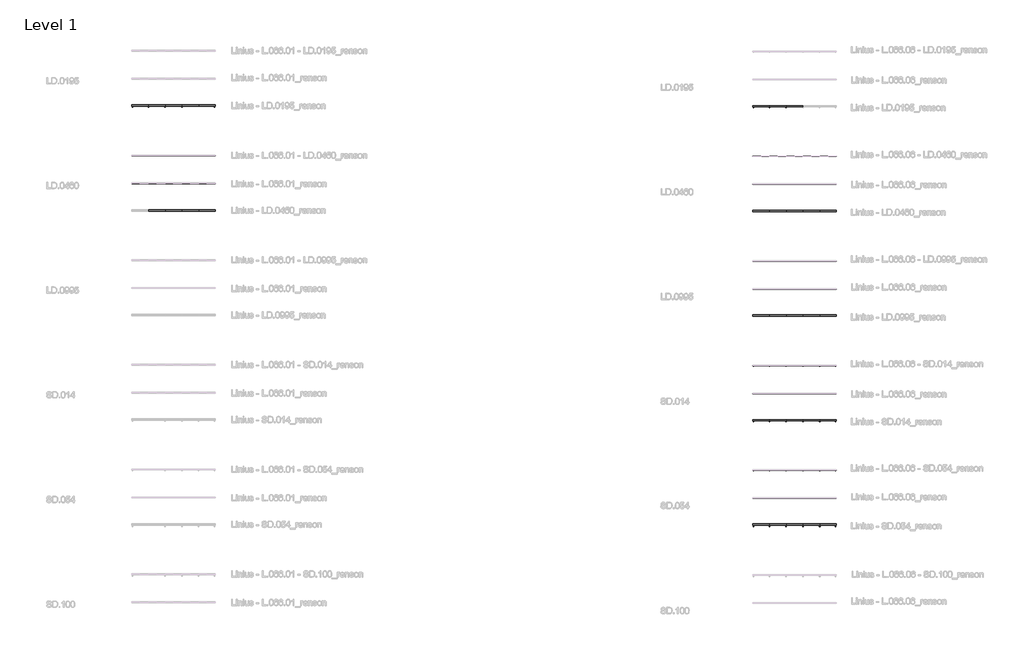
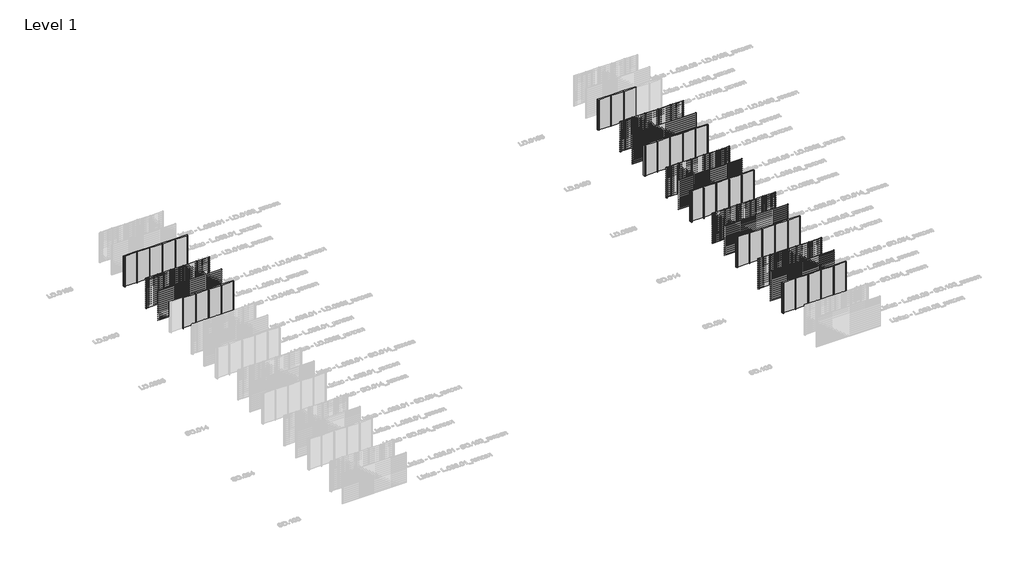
# One storey, part 3 of 540: 68 members, 62 plates.
"""IFC4 building model written with IfcOpenShell, lengths in millimetres."""

from ifc_helpers import new_model, si_unit, origin, origin_with_axes, place, context, project, spatial, polyline, outline, extrude, transform, mapped, element, save
from components import rectangular_mullion_e1f482b2, rectangular_mullion_21e3ddae, rectangular_mullion_fb497acc, rectangular_mullion_3facce28, rectangular_mullion_6cf2c509, rectangular_mullion_146f339b, rectangular_mullion_aa1047c5, rectangular_mullion_c2c7736a, rectangular_mullion_35b0a916, rectangular_mullion_bd250e2e, rectangular_mullion_7b49c8f1, rectangular_mullion_2b84ad7e, rectangular_mullion_0fd695e7, rectangular_mullion_9b796d85, rectangular_mullion_dfb17e98, empty_system_panel_empty_aabbdda4

model = new_model("IFC4")

# Units and contexts
model_context = context("Model", 3, world=origin())
ifc_project = project(units=[si_unit("LENGTHUNIT", "METRE", prefix="MILLI")], contexts=[model_context])

# Site, building, storey
site = spatial("IfcSite", under=ifc_project)
building = spatial("IfcBuilding", under=site)
storey = spatial("IfcBuildingStorey", under=building, Name="Level 1", Elevation=0.0)

# Members
placement = place(None, origin())
rectangular_mullion_shape = rectangular_mullion_e1f482b2(model_context)
element("IfcMember", 1, ObjectType="Rectangular Mullion : LD.0195_renson", at=placement, inside=storey, context=model_context, shape_type="MappedRepresentation", body=[
    mapped(rectangular_mullion_shape, transform((4066.6208096, 62524.0540136, 0.0), x_axis=(-1.0, 0.0, 0.0), y_axis=(0.0, 1.0, 0.0), z_axis=(0.0, 0.0, -1.0))),
])
element("IfcMember", 2, ObjectType="Rectangular Mullion : LD.0195_renson", at=placement, inside=storey, context=model_context, shape_type="MappedRepresentation", body=[
    mapped(rectangular_mullion_shape, transform((2866.6208097, 62524.0540136, 0.0), x_axis=(-1.0, 0.0, 0.0), y_axis=(0.0, 1.0, 0.0), z_axis=(0.0, 0.0, -1.0))),
])
element("IfcMember", 3, ObjectType="Rectangular Mullion : LD.0195_renson", at=placement, inside=storey, context=model_context, shape_type="MappedRepresentation", body=[
    mapped(rectangular_mullion_shape, transform((1666.6208099, 62524.0540136, 0.0), x_axis=(-1.0, 0.0, 0.0), y_axis=(0.0, 1.0, 0.0), z_axis=(0.0, 0.0, -1.0))),
])
element("IfcMember", 4, ObjectType="Rectangular Mullion : LD.0195_renson", at=placement, inside=storey, context=model_context, shape_type="MappedRepresentation", body=[
    mapped(rectangular_mullion_shape, transform((5266.6208095, 62524.0540136, 0.0), x_axis=(-1.0, 0.0, 0.0), y_axis=(0.0, 1.0, 0.0), z_axis=(0.0, 0.0, -1.0))),
])
element("IfcMember", 5, ObjectType="Rectangular Mullion : LD.0195_renson", at=placement, inside=storey, context=model_context, shape_type="MappedRepresentation", body=[
    mapped(rectangular_mullion_shape, transform((47366.6208097, 62481.0540136, 0.0), x_axis=(-1.0, 0.0, 0.0), y_axis=(0.0, 1.0, 0.0), z_axis=(0.0, 0.0, -1.0))),
])
element("IfcMember", 6, ObjectType="Rectangular Mullion : LD.0195_renson", at=placement, inside=storey, context=model_context, shape_type="MappedRepresentation", body=[
    mapped(rectangular_mullion_shape, transform((46166.6208097, 62481.0540136, 0.0), x_axis=(-1.0, 0.0, 0.0), y_axis=(0.0, 1.0, 0.0), z_axis=(0.0, 0.0, -1.0))),
])
rectangular_mullion_2_shape = rectangular_mullion_21e3ddae(model_context)
element("IfcMember", 7, ObjectType="Rectangular Mullion : LD.0460_renson", at=placement, inside=storey, context=model_context, shape_type="MappedRepresentation", body=[
    mapped(rectangular_mullion_2_shape, transform((4066.6208096, 59024.0540136, 0.0), x_axis=(-1.0, 0.0, 0.0), y_axis=(0.0, 1.0, 0.0), z_axis=(0.0, 0.0, -1.0))),
])
element("IfcMember", 8, ObjectType="Rectangular Mullion : LD.0460_renson", at=placement, inside=storey, context=model_context, shape_type="MappedRepresentation", body=[
    mapped(rectangular_mullion_2_shape, transform((2866.6208097, 59024.0540136, 0.0), x_axis=(-1.0, 0.0, 0.0), y_axis=(0.0, 1.0, 0.0), z_axis=(0.0, 0.0, -1.0))),
])
element("IfcMember", 9, ObjectType="Rectangular Mullion : LD.0460_renson", at=placement, inside=storey, context=model_context, shape_type="MappedRepresentation", body=[
    mapped(rectangular_mullion_2_shape, transform((1666.6208099, 59024.0540136, 0.0), x_axis=(-1.0, 0.0, 0.0), y_axis=(0.0, 1.0, 0.0), z_axis=(0.0, 0.0, -1.0))),
])
element("IfcMember", 10, ObjectType="Rectangular Mullion : LD.0460_renson", at=placement, inside=storey, context=model_context, shape_type="MappedRepresentation", body=[
    mapped(rectangular_mullion_2_shape, transform((4066.6208096, 55024.0540136, 0.0), x_axis=(-1.0, 0.0, 0.0), y_axis=(0.0, 1.0, 0.0), z_axis=(0.0, 0.0, -1.0))),
])
element("IfcMember", 11, ObjectType="Rectangular Mullion : LD.0460_renson", at=placement, inside=storey, context=model_context, shape_type="MappedRepresentation", body=[
    mapped(rectangular_mullion_2_shape, transform((2866.6208097, 55024.0540136, 0.0), x_axis=(-1.0, 0.0, 0.0), y_axis=(0.0, 1.0, 0.0), z_axis=(0.0, 0.0, -1.0))),
])
element("IfcMember", 12, ObjectType="Rectangular Mullion : LD.0460_renson", at=placement, inside=storey, context=model_context, shape_type="MappedRepresentation", body=[
    mapped(rectangular_mullion_2_shape, transform((1666.6208099, 55024.0540136, 0.0), x_axis=(-1.0, 0.0, 0.0), y_axis=(0.0, 1.0, 0.0), z_axis=(0.0, 0.0, -1.0))),
])
element("IfcMember", 13, ObjectType="Rectangular Mullion : LD.0460_renson", at=placement, inside=storey, context=model_context, shape_type="MappedRepresentation", body=[
    mapped(rectangular_mullion_2_shape, transform((5266.6208095, 55024.0540136, 0.0), x_axis=(-1.0, 0.0, 0.0), y_axis=(0.0, 1.0, 0.0), z_axis=(0.0, 0.0, -1.0))),
])
element("IfcMember", 14, ObjectType="Rectangular Mullion : LD.0460_renson", at=placement, inside=storey, context=model_context, shape_type="MappedRepresentation", body=[
    mapped(rectangular_mullion_2_shape, transform((5266.6208095, 59024.0540136, 0.0), x_axis=(-1.0, 0.0, 0.0), y_axis=(0.0, 1.0, 0.0), z_axis=(0.0, 0.0, -1.0))),
])
element("IfcMember", 15, ObjectType="Rectangular Mullion : LD.0460_renson", at=placement, inside=storey, context=model_context, shape_type="MappedRepresentation", body=[
    mapped(rectangular_mullion_2_shape, transform((49766.6208097, 58981.0540136, 0.0), x_axis=(-1.0, 0.0, 0.0), y_axis=(0.0, 1.0, 0.0), z_axis=(0.0, 0.0, -1.0))),
])
element("IfcMember", 16, ObjectType="Rectangular Mullion : LD.0460_renson", at=placement, inside=storey, context=model_context, shape_type="MappedRepresentation", body=[
    mapped(rectangular_mullion_2_shape, transform((48566.6208097, 58981.0540136, 0.0), x_axis=(-1.0, 0.0, 0.0), y_axis=(0.0, 1.0, 0.0), z_axis=(0.0, 0.0, -1.0))),
])
element("IfcMember", 17, ObjectType="Rectangular Mullion : LD.0460_renson", at=placement, inside=storey, context=model_context, shape_type="MappedRepresentation", body=[
    mapped(rectangular_mullion_2_shape, transform((47366.6208097, 58981.0540136, 0.0), x_axis=(-1.0, 0.0, 0.0), y_axis=(0.0, 1.0, 0.0), z_axis=(0.0, 0.0, -1.0))),
])
element("IfcMember", 18, ObjectType="Rectangular Mullion : LD.0460_renson", at=placement, inside=storey, context=model_context, shape_type="MappedRepresentation", body=[
    mapped(rectangular_mullion_2_shape, transform((46166.6208097, 58981.0540136, 0.0), x_axis=(-1.0, 0.0, 0.0), y_axis=(0.0, 1.0, 0.0), z_axis=(0.0, 0.0, -1.0))),
])
element("IfcMember", 19, ObjectType="Rectangular Mullion : LD.0460_renson", at=placement, inside=storey, context=model_context, shape_type="MappedRepresentation", body=[
    mapped(rectangular_mullion_2_shape, transform((49766.6208097, 54981.0540136, 0.0), x_axis=(-1.0, 0.0, 0.0), y_axis=(0.0, 1.0, 0.0), z_axis=(0.0, 0.0, -1.0))),
])
element("IfcMember", 20, ObjectType="Rectangular Mullion : LD.0460_renson", at=placement, inside=storey, context=model_context, shape_type="MappedRepresentation", body=[
    mapped(rectangular_mullion_2_shape, transform((48566.6208097, 54981.0540136, 0.0), x_axis=(-1.0, 0.0, 0.0), y_axis=(0.0, 1.0, 0.0), z_axis=(0.0, 0.0, -1.0))),
])
element("IfcMember", 21, ObjectType="Rectangular Mullion : LD.0460_renson", at=placement, inside=storey, context=model_context, shape_type="MappedRepresentation", body=[
    mapped(rectangular_mullion_2_shape, transform((47366.6208097, 54981.0540136, 0.0), x_axis=(-1.0, 0.0, 0.0), y_axis=(0.0, 1.0, 0.0), z_axis=(0.0, 0.0, -1.0))),
])
element("IfcMember", 22, ObjectType="Rectangular Mullion : LD.0460_renson", at=placement, inside=storey, context=model_context, shape_type="MappedRepresentation", body=[
    mapped(rectangular_mullion_2_shape, transform((46166.6208097, 54981.0540136, 0.0), x_axis=(-1.0, 0.0, 0.0), y_axis=(0.0, 1.0, 0.0), z_axis=(0.0, 0.0, -1.0))),
])
rectangular_mullion_3_shape = rectangular_mullion_fb497acc(model_context)
element("IfcMember", 23, ObjectType="Rectangular Mullion : LD.0995_renson", at=placement, inside=storey, context=model_context, shape_type="MappedRepresentation", body=[
    mapped(rectangular_mullion_3_shape, transform((49766.6208097, 51481.0540136, 0.0), x_axis=(-1.0, 0.0, 0.0), y_axis=(0.0, 1.0, 0.0), z_axis=(0.0, 0.0, -1.0))),
])
element("IfcMember", 24, ObjectType="Rectangular Mullion : LD.0995_renson", at=placement, inside=storey, context=model_context, shape_type="MappedRepresentation", body=[
    mapped(rectangular_mullion_3_shape, transform((48566.6208097, 51481.0540136, 0.0), x_axis=(-1.0, 0.0, 0.0), y_axis=(0.0, 1.0, 0.0), z_axis=(0.0, 0.0, -1.0))),
])
element("IfcMember", 25, ObjectType="Rectangular Mullion : LD.0995_renson", at=placement, inside=storey, context=model_context, shape_type="MappedRepresentation", body=[
    mapped(rectangular_mullion_3_shape, transform((47366.6208097, 51481.0540136, 0.0), x_axis=(-1.0, 0.0, 0.0), y_axis=(0.0, 1.0, 0.0), z_axis=(0.0, 0.0, -1.0))),
])
element("IfcMember", 26, ObjectType="Rectangular Mullion : LD.0995_renson", at=placement, inside=storey, context=model_context, shape_type="MappedRepresentation", body=[
    mapped(rectangular_mullion_3_shape, transform((46166.6208097, 51481.0540136, 0.0), x_axis=(-1.0, 0.0, 0.0), y_axis=(0.0, 1.0, 0.0), z_axis=(0.0, 0.0, -1.0))),
])
element("IfcMember", 27, ObjectType="Rectangular Mullion : LD.0995_renson", at=placement, inside=storey, context=model_context, shape_type="MappedRepresentation", body=[
    mapped(rectangular_mullion_3_shape, transform((49766.6208097, 47481.0540136, 0.0), x_axis=(-1.0, 0.0, 0.0), y_axis=(0.0, 1.0, 0.0), z_axis=(0.0, 0.0, -1.0))),
])
element("IfcMember", 28, ObjectType="Rectangular Mullion : LD.0995_renson", at=placement, inside=storey, context=model_context, shape_type="MappedRepresentation", body=[
    mapped(rectangular_mullion_3_shape, transform((48566.6208097, 47481.0540136, 0.0), x_axis=(-1.0, 0.0, 0.0), y_axis=(0.0, 1.0, 0.0), z_axis=(0.0, 0.0, -1.0))),
])
element("IfcMember", 29, ObjectType="Rectangular Mullion : LD.0995_renson", at=placement, inside=storey, context=model_context, shape_type="MappedRepresentation", body=[
    mapped(rectangular_mullion_3_shape, transform((47366.6208097, 47481.0540136, 0.0), x_axis=(-1.0, 0.0, 0.0), y_axis=(0.0, 1.0, 0.0), z_axis=(0.0, 0.0, -1.0))),
])
element("IfcMember", 30, ObjectType="Rectangular Mullion : LD.0995_renson", at=placement, inside=storey, context=model_context, shape_type="MappedRepresentation", body=[
    mapped(rectangular_mullion_3_shape, transform((46166.6208097, 47481.0540136, 0.0), x_axis=(-1.0, 0.0, 0.0), y_axis=(0.0, 1.0, 0.0), z_axis=(0.0, 0.0, -1.0))),
])
rectangular_mullion_4_shape = rectangular_mullion_3facce28(model_context)
element("IfcMember", 31, ObjectType="Rectangular Mullion : SD.014_renson", at=placement, inside=storey, context=model_context, shape_type="MappedRepresentation", body=[
    mapped(rectangular_mullion_4_shape, transform((49766.6208097, 43981.0540136, 0.0), x_axis=(-1.0, 0.0, 0.0), y_axis=(0.0, 1.0, 0.0), z_axis=(0.0, 0.0, -1.0))),
])
element("IfcMember", 32, ObjectType="Rectangular Mullion : SD.014_renson", at=placement, inside=storey, context=model_context, shape_type="MappedRepresentation", body=[
    mapped(rectangular_mullion_4_shape, transform((48566.6208097, 43981.0540136, 0.0), x_axis=(-1.0, 0.0, 0.0), y_axis=(0.0, 1.0, 0.0), z_axis=(0.0, 0.0, -1.0))),
])
element("IfcMember", 33, ObjectType="Rectangular Mullion : SD.014_renson", at=placement, inside=storey, context=model_context, shape_type="MappedRepresentation", body=[
    mapped(rectangular_mullion_4_shape, transform((47366.6208097, 43981.0540136, 0.0), x_axis=(-1.0, 0.0, 0.0), y_axis=(0.0, 1.0, 0.0), z_axis=(0.0, 0.0, -1.0))),
])
element("IfcMember", 34, ObjectType="Rectangular Mullion : SD.014_renson", at=placement, inside=storey, context=model_context, shape_type="MappedRepresentation", body=[
    mapped(rectangular_mullion_4_shape, transform((46166.6208097, 43981.0540136, 0.0), x_axis=(-1.0, 0.0, 0.0), y_axis=(0.0, 1.0, 0.0), z_axis=(0.0, 0.0, -1.0))),
])
element("IfcMember", 35, ObjectType="Rectangular Mullion : SD.014_renson", at=placement, inside=storey, context=model_context, shape_type="MappedRepresentation", body=[
    mapped(rectangular_mullion_4_shape, transform((49766.6208097, 39981.0540136, 0.0), x_axis=(-1.0, 0.0, 0.0), y_axis=(0.0, 1.0, 0.0), z_axis=(0.0, 0.0, -1.0))),
])
element("IfcMember", 36, ObjectType="Rectangular Mullion : SD.014_renson", at=placement, inside=storey, context=model_context, shape_type="MappedRepresentation", body=[
    mapped(rectangular_mullion_4_shape, transform((48566.6208097, 39981.0540136, 0.0), x_axis=(-1.0, 0.0, 0.0), y_axis=(0.0, 1.0, 0.0), z_axis=(0.0, 0.0, -1.0))),
])
element("IfcMember", 37, ObjectType="Rectangular Mullion : SD.014_renson", at=placement, inside=storey, context=model_context, shape_type="MappedRepresentation", body=[
    mapped(rectangular_mullion_4_shape, transform((47366.6208097, 39981.0540136, 0.0), x_axis=(-1.0, 0.0, 0.0), y_axis=(0.0, 1.0, 0.0), z_axis=(0.0, 0.0, -1.0))),
])
element("IfcMember", 38, ObjectType="Rectangular Mullion : SD.014_renson", at=placement, inside=storey, context=model_context, shape_type="MappedRepresentation", body=[
    mapped(rectangular_mullion_4_shape, transform((46166.6208097, 39981.0540136, 0.0), x_axis=(-1.0, 0.0, 0.0), y_axis=(0.0, 1.0, 0.0), z_axis=(0.0, 0.0, -1.0))),
])
rectangular_mullion_5_shape = rectangular_mullion_6cf2c509(model_context)
element("IfcMember", 39, ObjectType="Rectangular Mullion : SD.054_renson", at=placement, inside=storey, context=model_context, shape_type="MappedRepresentation", body=[
    mapped(rectangular_mullion_5_shape, transform((49766.6208097, 36510.8040136, 0.0), x_axis=(-1.0, 0.0, 0.0), y_axis=(0.0, 1.0, 0.0), z_axis=(0.0, 0.0, -1.0))),
])
element("IfcMember", 40, ObjectType="Rectangular Mullion : SD.054_renson", at=placement, inside=storey, context=model_context, shape_type="MappedRepresentation", body=[
    mapped(rectangular_mullion_5_shape, transform((48566.6208097, 36510.8040136, 0.0), x_axis=(-1.0, 0.0, 0.0), y_axis=(0.0, 1.0, 0.0), z_axis=(0.0, 0.0, -1.0))),
])
element("IfcMember", 41, ObjectType="Rectangular Mullion : SD.054_renson", at=placement, inside=storey, context=model_context, shape_type="MappedRepresentation", body=[
    mapped(rectangular_mullion_5_shape, transform((47366.6208097, 36510.8040136, 0.0), x_axis=(-1.0, 0.0, 0.0), y_axis=(0.0, 1.0, 0.0), z_axis=(0.0, 0.0, -1.0))),
])
element("IfcMember", 42, ObjectType="Rectangular Mullion : SD.054_renson", at=placement, inside=storey, context=model_context, shape_type="MappedRepresentation", body=[
    mapped(rectangular_mullion_5_shape, transform((46166.6208097, 36510.8040136, 0.0), x_axis=(-1.0, 0.0, 0.0), y_axis=(0.0, 1.0, 0.0), z_axis=(0.0, 0.0, -1.0))),
])
element("IfcMember", 43, ObjectType="Rectangular Mullion : SD.054_renson", at=placement, inside=storey, context=model_context, shape_type="MappedRepresentation", body=[
    mapped(rectangular_mullion_5_shape, transform((49766.6208097, 32510.8040136, 0.0), x_axis=(-1.0, 0.0, 0.0), y_axis=(0.0, 1.0, 0.0), z_axis=(0.0, 0.0, -1.0))),
])
element("IfcMember", 44, ObjectType="Rectangular Mullion : SD.054_renson", at=placement, inside=storey, context=model_context, shape_type="MappedRepresentation", body=[
    mapped(rectangular_mullion_5_shape, transform((48566.6208097, 32510.8040136, 0.0), x_axis=(-1.0, 0.0, 0.0), y_axis=(0.0, 1.0, 0.0), z_axis=(0.0, 0.0, -1.0))),
])
element("IfcMember", 45, ObjectType="Rectangular Mullion : SD.054_renson", at=placement, inside=storey, context=model_context, shape_type="MappedRepresentation", body=[
    mapped(rectangular_mullion_5_shape, transform((47366.6208097, 32510.8040136, 0.0), x_axis=(-1.0, 0.0, 0.0), y_axis=(0.0, 1.0, 0.0), z_axis=(0.0, 0.0, -1.0))),
])
element("IfcMember", 46, ObjectType="Rectangular Mullion : SD.054_renson", at=placement, inside=storey, context=model_context, shape_type="MappedRepresentation", body=[
    mapped(rectangular_mullion_5_shape, transform((46166.6208097, 32510.8040136, 0.0), x_axis=(-1.0, 0.0, 0.0), y_axis=(0.0, 1.0, 0.0), z_axis=(0.0, 0.0, -1.0))),
])
rectangular_mullion_6_shape = rectangular_mullion_146f339b(model_context)
element("IfcMember", 47, ObjectType="Rectangular Mullion : LD.0195 - left_renson", at=placement, inside=storey, context=model_context, shape_type="MappedRepresentation", body=[
    mapped(rectangular_mullion_6_shape, transform((466.6208097, 62524.0540136, 0.0), x_axis=(-1.0, 0.0, 0.0), y_axis=(0.0, 1.0, 0.0), z_axis=(0.0, 0.0, -1.0))),
])
element("IfcMember", 48, ObjectType="Rectangular Mullion : LD.0195 - left_renson", at=placement, inside=storey, context=model_context, shape_type="MappedRepresentation", body=[
    mapped(rectangular_mullion_6_shape, transform((44966.6208097, 62481.0540136, 0.0), x_axis=(-1.0, 0.0, 0.0), y_axis=(0.0, 1.0, 0.0), z_axis=(0.0, 0.0, -1.0))),
])
rectangular_mullion_7_shape = rectangular_mullion_aa1047c5(model_context)
element("IfcMember", 49, ObjectType="Rectangular Mullion : LD.0195 - right_renson", at=placement, inside=storey, context=model_context, shape_type="MappedRepresentation", body=[
    mapped(rectangular_mullion_7_shape, transform((6466.6208097, 62524.0540136, 3000.0), x_axis=(1.0, 0.0, 0.0), y_axis=(0.0, 1.0, 0.0), z_axis=(0.0, 0.0, 1.0))),
])
rectangular_mullion_8_shape = rectangular_mullion_c2c7736a(model_context)
element("IfcMember", 50, ObjectType="Rectangular Mullion : LD.0460 - left_renson", at=placement, inside=storey, context=model_context, shape_type="MappedRepresentation", body=[
    mapped(rectangular_mullion_8_shape, transform((466.6208097, 59024.0540136, 0.0), x_axis=(-1.0, 0.0, 0.0), y_axis=(0.0, 1.0, 0.0), z_axis=(0.0, 0.0, -1.0))),
])
element("IfcMember", 51, ObjectType="Rectangular Mullion : LD.0460 - left_renson", at=placement, inside=storey, context=model_context, shape_type="MappedRepresentation", body=[
    mapped(rectangular_mullion_8_shape, transform((44966.6208097, 58981.0540136, 0.0), x_axis=(-1.0, 0.0, 0.0), y_axis=(0.0, 1.0, 0.0), z_axis=(0.0, 0.0, -1.0))),
])
element("IfcMember", 52, ObjectType="Rectangular Mullion : LD.0460 - left_renson", at=placement, inside=storey, context=model_context, shape_type="MappedRepresentation", body=[
    mapped(rectangular_mullion_8_shape, transform((44966.6208097, 54981.0540136, 0.0), x_axis=(-1.0, 0.0, 0.0), y_axis=(0.0, 1.0, 0.0), z_axis=(0.0, 0.0, -1.0))),
])
rectangular_mullion_9_shape = rectangular_mullion_35b0a916(model_context)
element("IfcMember", 53, ObjectType="Rectangular Mullion : LD.0460 - right_renson", at=placement, inside=storey, context=model_context, shape_type="MappedRepresentation", body=[
    mapped(rectangular_mullion_9_shape, transform((6466.6208097, 59024.0540136, 3000.0), x_axis=(1.0, 0.0, 0.0), y_axis=(0.0, 1.0, 0.0), z_axis=(0.0, 0.0, 1.0))),
])
element("IfcMember", 54, ObjectType="Rectangular Mullion : LD.0460 - right_renson", at=placement, inside=storey, context=model_context, shape_type="MappedRepresentation", body=[
    mapped(rectangular_mullion_9_shape, transform((6466.6208097, 55024.0540136, 3000.0), x_axis=(1.0, 0.0, 0.0), y_axis=(0.0, 1.0, 0.0), z_axis=(0.0, 0.0, 1.0))),
])
element("IfcMember", 55, ObjectType="Rectangular Mullion : LD.0460 - right_renson", at=placement, inside=storey, context=model_context, shape_type="MappedRepresentation", body=[
    mapped(rectangular_mullion_9_shape, transform((50966.6208097, 58981.0540136, 3000.0), x_axis=(1.0, 0.0, 0.0), y_axis=(0.0, 1.0, 0.0), z_axis=(0.0, 0.0, 1.0))),
])
element("IfcMember", 56, ObjectType="Rectangular Mullion : LD.0460 - right_renson", at=placement, inside=storey, context=model_context, shape_type="MappedRepresentation", body=[
    mapped(rectangular_mullion_9_shape, transform((50966.6208097, 54981.0540136, 3000.0), x_axis=(1.0, 0.0, 0.0), y_axis=(0.0, 1.0, 0.0), z_axis=(0.0, 0.0, 1.0))),
])
rectangular_mullion_10_shape = rectangular_mullion_bd250e2e(model_context)
element("IfcMember", 57, ObjectType="Rectangular Mullion : LD.0995 - left_renson", at=placement, inside=storey, context=model_context, shape_type="MappedRepresentation", body=[
    mapped(rectangular_mullion_10_shape, transform((44966.6208097, 51481.0540136, 0.0), x_axis=(-1.0, 0.0, 0.0), y_axis=(0.0, 1.0, 0.0), z_axis=(0.0, 0.0, -1.0))),
])
element("IfcMember", 58, ObjectType="Rectangular Mullion : LD.0995 - left_renson", at=placement, inside=storey, context=model_context, shape_type="MappedRepresentation", body=[
    mapped(rectangular_mullion_10_shape, transform((44966.6208097, 47481.0540136, 0.0), x_axis=(-1.0, 0.0, 0.0), y_axis=(0.0, 1.0, 0.0), z_axis=(0.0, 0.0, -1.0))),
])
rectangular_mullion_11_shape = rectangular_mullion_7b49c8f1(model_context)
element("IfcMember", 59, ObjectType="Rectangular Mullion : LD.0995 - right_renson", at=placement, inside=storey, context=model_context, shape_type="MappedRepresentation", body=[
    mapped(rectangular_mullion_11_shape, transform((50966.6208097, 51481.0540136, 3000.0), x_axis=(1.0, 0.0, 0.0), y_axis=(0.0, 1.0, 0.0), z_axis=(0.0, 0.0, 1.0))),
])
element("IfcMember", 60, ObjectType="Rectangular Mullion : LD.0995 - right_renson", at=placement, inside=storey, context=model_context, shape_type="MappedRepresentation", body=[
    mapped(rectangular_mullion_11_shape, transform((50966.6208097, 47481.0540136, 3000.0), x_axis=(1.0, 0.0, 0.0), y_axis=(0.0, 1.0, 0.0), z_axis=(0.0, 0.0, 1.0))),
])
rectangular_mullion_12_shape = rectangular_mullion_2b84ad7e(model_context)
element("IfcMember", 61, ObjectType="Rectangular Mullion : SD.014 - left_renson", at=placement, inside=storey, context=model_context, shape_type="MappedRepresentation", body=[
    mapped(rectangular_mullion_12_shape, transform((44966.6208097, 43981.0540136, 0.0), x_axis=(-1.0, 0.0, 0.0), y_axis=(0.0, 1.0, 0.0), z_axis=(0.0, 0.0, -1.0))),
])
element("IfcMember", 62, ObjectType="Rectangular Mullion : SD.014 - left_renson", at=placement, inside=storey, context=model_context, shape_type="MappedRepresentation", body=[
    mapped(rectangular_mullion_12_shape, transform((44966.6208097, 39981.0540136, 0.0), x_axis=(-1.0, 0.0, 0.0), y_axis=(0.0, 1.0, 0.0), z_axis=(0.0, 0.0, -1.0))),
])
rectangular_mullion_13_shape = rectangular_mullion_0fd695e7(model_context)
element("IfcMember", 63, ObjectType="Rectangular Mullion : SD.014 - right_renson", at=placement, inside=storey, context=model_context, shape_type="MappedRepresentation", body=[
    mapped(rectangular_mullion_13_shape, transform((50966.6208097, 43981.0540136, 3000.0), x_axis=(1.0, 0.0, 0.0), y_axis=(0.0, 1.0, 0.0), z_axis=(0.0, 0.0, 1.0))),
])
element("IfcMember", 64, ObjectType="Rectangular Mullion : SD.014 - right_renson", at=placement, inside=storey, context=model_context, shape_type="MappedRepresentation", body=[
    mapped(rectangular_mullion_13_shape, transform((50966.6208097, 39981.0540136, 3000.0), x_axis=(1.0, 0.0, 0.0), y_axis=(0.0, 1.0, 0.0), z_axis=(0.0, 0.0, 1.0))),
])
rectangular_mullion_14_shape = rectangular_mullion_9b796d85(model_context)
element("IfcMember", 65, ObjectType="Rectangular Mullion : SD.054 - left_renson", at=placement, inside=storey, context=model_context, shape_type="MappedRepresentation", body=[
    mapped(rectangular_mullion_14_shape, transform((44966.6208097, 36510.8040136, 0.0), x_axis=(-1.0, 0.0, 0.0), y_axis=(0.0, 1.0, 0.0), z_axis=(0.0, 0.0, -1.0))),
])
element("IfcMember", 66, ObjectType="Rectangular Mullion : SD.054 - left_renson", at=placement, inside=storey, context=model_context, shape_type="MappedRepresentation", body=[
    mapped(rectangular_mullion_14_shape, transform((44966.6208097, 32510.8040136, 0.0), x_axis=(-1.0, 0.0, 0.0), y_axis=(0.0, 1.0, 0.0), z_axis=(0.0, 0.0, -1.0))),
])
rectangular_mullion_15_shape = rectangular_mullion_dfb17e98(model_context)
element("IfcMember", 67, ObjectType="Rectangular Mullion : SD.054 - right_renson", at=placement, inside=storey, context=model_context, shape_type="MappedRepresentation", body=[
    mapped(rectangular_mullion_15_shape, transform((50966.6208097, 36510.8040136, 3000.0), x_axis=(1.0, 0.0, 0.0), y_axis=(0.0, 1.0, 0.0), z_axis=(0.0, 0.0, 1.0))),
])
element("IfcMember", 68, ObjectType="Rectangular Mullion : SD.054 - right_renson", at=placement, inside=storey, context=model_context, shape_type="MappedRepresentation", body=[
    mapped(rectangular_mullion_15_shape, transform((50966.6208097, 32510.8040136, 3000.0), x_axis=(1.0, 0.0, 0.0), y_axis=(0.0, 1.0, 0.0), z_axis=(0.0, 0.0, 1.0))),
])

# Plates
element("IfcPlate", 69, ObjectType="Linius - L.066.01_renson", at=placement, inside=storey, context=model_context, shape_type="SweptSolid", body=[
    extrude(outline(polyline([(466.6208097, 59025.0540136), (1666.6208099, 59025.0540136), (1666.6208099, 59023.0540136), (466.6208097, 59023.0540136), (466.6208097, 59025.0540136)])), origin_with_axes(), (0.0, 0.0, 1.0), 3000.0),
])
element("IfcPlate", 70, ObjectType="Linius - L.066.01_renson", at=placement, inside=storey, context=model_context, shape_type="SweptSolid", body=[
    extrude(outline(polyline([(1666.6208099, 59025.0540136), (2866.6208097, 59025.0540136), (2866.6208097, 59023.0540136), (1666.6208099, 59023.0540136), (1666.6208099, 59025.0540136)])), origin_with_axes(), (0.0, 0.0, 1.0), 3000.0),
])
element("IfcPlate", 71, ObjectType="Linius - L.066.01_renson", at=placement, inside=storey, context=model_context, shape_type="SweptSolid", body=[
    extrude(outline(polyline([(2866.6208097, 59025.0540136), (4066.6208096, 59025.0540136), (4066.6208096, 59023.0540136), (2866.6208097, 59023.0540136), (2866.6208097, 59025.0540136)])), origin_with_axes(), (0.0, 0.0, 1.0), 3000.0),
])
element("IfcPlate", 72, ObjectType="Linius - L.066.01_renson", at=placement, inside=storey, context=model_context, shape_type="SweptSolid", body=[
    extrude(outline(polyline([(5266.6208095, 59025.0540136), (6466.6208097, 59025.0540136), (6466.6208097, 59023.0540136), (5266.6208095, 59023.0540136), (5266.6208095, 59025.0540136)])), origin_with_axes(), (0.0, 0.0, 1.0), 3000.0),
])
element("IfcPlate", 73, ObjectType="Linius - L.066.01_renson", at=placement, inside=storey, context=model_context, shape_type="SweptSolid", body=[
    extrude(outline(polyline([(466.6208097, 57025.0540136), (6466.6208097, 57025.0540136), (6466.6208097, 57023.0540136), (466.6208097, 57023.0540136), (466.6208097, 57025.0540136)])), origin_with_axes(), (0.0, 0.0, 1.0), 3000.0),
])
element("IfcPlate", 74, ObjectType="Linius - L.066.01_renson", at=placement, inside=storey, context=model_context, shape_type="SweptSolid", body=[
    extrude(outline(polyline([(4066.6208096, 59025.0540136), (5266.6208095, 59025.0540136), (5266.6208095, 59023.0540136), (4066.6208096, 59023.0540136), (4066.6208096, 59025.0540136)])), origin_with_axes(), (0.0, 0.0, 1.0), 3000.0),
])
element("IfcPlate", 75, ObjectType="Linius - L.066.06_renson", at=placement, inside=storey, context=model_context, shape_type="SweptSolid", body=[
    extrude(outline(polyline([(44966.6208097, 58982.0540136), (46166.6208097, 58982.0540136), (46166.6208097, 58980.0540136), (44966.6208097, 58980.0540136), (44966.6208097, 58982.0540136)])), origin_with_axes(), (0.0, 0.0, 1.0), 3000.0),
])
element("IfcPlate", 76, ObjectType="Linius - L.066.06_renson", at=placement, inside=storey, context=model_context, shape_type="SweptSolid", body=[
    extrude(outline(polyline([(46166.6208097, 58982.0540136), (47366.6208097, 58982.0540136), (47366.6208097, 58980.0540136), (46166.6208097, 58980.0540136), (46166.6208097, 58982.0540136)])), origin_with_axes(), (0.0, 0.0, 1.0), 3000.0),
])
element("IfcPlate", 77, ObjectType="Linius - L.066.06_renson", at=placement, inside=storey, context=model_context, shape_type="SweptSolid", body=[
    extrude(outline(polyline([(47366.6208097, 58982.0540136), (48566.6208097, 58982.0540136), (48566.6208097, 58980.0540136), (47366.6208097, 58980.0540136), (47366.6208097, 58982.0540136)])), origin_with_axes(), (0.0, 0.0, 1.0), 3000.0),
])
element("IfcPlate", 78, ObjectType="Linius - L.066.06_renson", at=placement, inside=storey, context=model_context, shape_type="SweptSolid", body=[
    extrude(outline(polyline([(48566.6208097, 58982.0540136), (49766.6208097, 58982.0540136), (49766.6208097, 58980.0540136), (48566.6208097, 58980.0540136), (48566.6208097, 58982.0540136)])), origin_with_axes(), (0.0, 0.0, 1.0), 3000.0),
])
element("IfcPlate", 79, ObjectType="Linius - L.066.06_renson", at=placement, inside=storey, context=model_context, shape_type="SweptSolid", body=[
    extrude(outline(polyline([(49766.6208097, 58982.0540136), (50966.6208097, 58982.0540136), (50966.6208097, 58980.0540136), (49766.6208097, 58980.0540136), (49766.6208097, 58982.0540136)])), origin_with_axes(), (0.0, 0.0, 1.0), 3000.0),
])
element("IfcPlate", 80, ObjectType="Linius - L.066.06_renson", at=placement, inside=storey, context=model_context, shape_type="SweptSolid", body=[
    extrude(outline(polyline([(44966.6208097, 56982.0540136), (50966.6208097, 56982.0540136), (50966.6208097, 56980.0540136), (44966.6208097, 56980.0540136), (44966.6208097, 56982.0540136)])), origin_with_axes(), (0.0, 0.0, 1.0), 3000.0),
])
element("IfcPlate", 81, ObjectType="Linius - L.066.06_renson", at=placement, inside=storey, context=model_context, shape_type="SweptSolid", body=[
    extrude(outline(polyline([(44966.6208097, 51482.0540136), (46166.6208097, 51482.0540136), (46166.6208097, 51480.0540136), (44966.6208097, 51480.0540136), (44966.6208097, 51482.0540136)])), origin_with_axes(), (0.0, 0.0, 1.0), 3000.0),
])
element("IfcPlate", 82, ObjectType="Linius - L.066.06_renson", at=placement, inside=storey, context=model_context, shape_type="SweptSolid", body=[
    extrude(outline(polyline([(46166.6208097, 51482.0540136), (47366.6208097, 51482.0540136), (47366.6208097, 51480.0540136), (46166.6208097, 51480.0540136), (46166.6208097, 51482.0540136)])), origin_with_axes(), (0.0, 0.0, 1.0), 3000.0),
])
element("IfcPlate", 83, ObjectType="Linius - L.066.06_renson", at=placement, inside=storey, context=model_context, shape_type="SweptSolid", body=[
    extrude(outline(polyline([(47366.6208097, 51482.0540136), (48566.6208097, 51482.0540136), (48566.6208097, 51480.0540136), (47366.6208097, 51480.0540136), (47366.6208097, 51482.0540136)])), origin_with_axes(), (0.0, 0.0, 1.0), 3000.0),
])
element("IfcPlate", 84, ObjectType="Linius - L.066.06_renson", at=placement, inside=storey, context=model_context, shape_type="SweptSolid", body=[
    extrude(outline(polyline([(48566.6208097, 51482.0540136), (49766.6208097, 51482.0540136), (49766.6208097, 51480.0540136), (48566.6208097, 51480.0540136), (48566.6208097, 51482.0540136)])), origin_with_axes(), (0.0, 0.0, 1.0), 3000.0),
])
element("IfcPlate", 85, ObjectType="Linius - L.066.06_renson", at=placement, inside=storey, context=model_context, shape_type="SweptSolid", body=[
    extrude(outline(polyline([(49766.6208097, 51482.0540136), (50966.6208097, 51482.0540136), (50966.6208097, 51480.0540136), (49766.6208097, 51480.0540136), (49766.6208097, 51482.0540136)])), origin_with_axes(), (0.0, 0.0, 1.0), 3000.0),
])
element("IfcPlate", 86, ObjectType="Linius - L.066.06_renson", at=placement, inside=storey, context=model_context, shape_type="SweptSolid", body=[
    extrude(outline(polyline([(44966.6208097, 49482.0540136), (50966.6208097, 49482.0540136), (50966.6208097, 49480.0540136), (44966.6208097, 49480.0540136), (44966.6208097, 49482.0540136)])), origin_with_axes(), (0.0, 0.0, 1.0), 3000.0),
])
element("IfcPlate", 87, ObjectType="Linius - L.066.06_renson", at=placement, inside=storey, context=model_context, shape_type="SweptSolid", body=[
    extrude(outline(polyline([(44966.6208097, 43982.0540136), (46166.6208097, 43982.0540136), (46166.6208097, 43980.0540136), (44966.6208097, 43980.0540136), (44966.6208097, 43982.0540136)])), origin_with_axes(), (0.0, 0.0, 1.0), 3000.0),
])
element("IfcPlate", 88, ObjectType="Linius - L.066.06_renson", at=placement, inside=storey, context=model_context, shape_type="SweptSolid", body=[
    extrude(outline(polyline([(46166.6208097, 43982.0540136), (47366.6208097, 43982.0540136), (47366.6208097, 43980.0540136), (46166.6208097, 43980.0540136), (46166.6208097, 43982.0540136)])), origin_with_axes(), (0.0, 0.0, 1.0), 3000.0),
])
element("IfcPlate", 89, ObjectType="Linius - L.066.06_renson", at=placement, inside=storey, context=model_context, shape_type="SweptSolid", body=[
    extrude(outline(polyline([(47366.6208097, 43982.0540136), (48566.6208097, 43982.0540136), (48566.6208097, 43980.0540136), (47366.6208097, 43980.0540136), (47366.6208097, 43982.0540136)])), origin_with_axes(), (0.0, 0.0, 1.0), 3000.0),
])
element("IfcPlate", 90, ObjectType="Linius - L.066.06_renson", at=placement, inside=storey, context=model_context, shape_type="SweptSolid", body=[
    extrude(outline(polyline([(48566.6208097, 43982.0540136), (49766.6208097, 43982.0540136), (49766.6208097, 43980.0540136), (48566.6208097, 43980.0540136), (48566.6208097, 43982.0540136)])), origin_with_axes(), (0.0, 0.0, 1.0), 3000.0),
])
element("IfcPlate", 91, ObjectType="Linius - L.066.06_renson", at=placement, inside=storey, context=model_context, shape_type="SweptSolid", body=[
    extrude(outline(polyline([(49766.6208097, 43982.0540136), (50966.6208097, 43982.0540136), (50966.6208097, 43980.0540136), (49766.6208097, 43980.0540136), (49766.6208097, 43982.0540136)])), origin_with_axes(), (0.0, 0.0, 1.0), 3000.0),
])
element("IfcPlate", 92, ObjectType="Linius - L.066.06_renson", at=placement, inside=storey, context=model_context, shape_type="SweptSolid", body=[
    extrude(outline(polyline([(44966.6208097, 41982.0540136), (50966.6208097, 41982.0540136), (50966.6208097, 41980.0540136), (44966.6208097, 41980.0540136), (44966.6208097, 41982.0540136)])), origin_with_axes(), (0.0, 0.0, 1.0), 3000.0),
])
element("IfcPlate", 93, ObjectType="Linius - L.066.06_renson", at=placement, inside=storey, context=model_context, shape_type="SweptSolid", body=[
    extrude(outline(polyline([(44966.6208097, 36511.8040136), (46166.6208097, 36511.8040136), (46166.6208097, 36509.8040136), (44966.6208097, 36509.8040136), (44966.6208097, 36511.8040136)])), origin_with_axes(), (0.0, 0.0, 1.0), 3000.0),
])
element("IfcPlate", 94, ObjectType="Linius - L.066.06_renson", at=placement, inside=storey, context=model_context, shape_type="SweptSolid", body=[
    extrude(outline(polyline([(46166.6208097, 36511.8040136), (47366.6208097, 36511.8040136), (47366.6208097, 36509.8040136), (46166.6208097, 36509.8040136), (46166.6208097, 36511.8040136)])), origin_with_axes(), (0.0, 0.0, 1.0), 3000.0),
])
element("IfcPlate", 95, ObjectType="Linius - L.066.06_renson", at=placement, inside=storey, context=model_context, shape_type="SweptSolid", body=[
    extrude(outline(polyline([(47366.6208097, 36511.8040136), (48566.6208097, 36511.8040136), (48566.6208097, 36509.8040136), (47366.6208097, 36509.8040136), (47366.6208097, 36511.8040136)])), origin_with_axes(), (0.0, 0.0, 1.0), 3000.0),
])
element("IfcPlate", 96, ObjectType="Linius - L.066.06_renson", at=placement, inside=storey, context=model_context, shape_type="SweptSolid", body=[
    extrude(outline(polyline([(48566.6208097, 36511.8040136), (49766.6208097, 36511.8040136), (49766.6208097, 36509.8040136), (48566.6208097, 36509.8040136), (48566.6208097, 36511.8040136)])), origin_with_axes(), (0.0, 0.0, 1.0), 3000.0),
])
element("IfcPlate", 97, ObjectType="Linius - L.066.06_renson", at=placement, inside=storey, context=model_context, shape_type="SweptSolid", body=[
    extrude(outline(polyline([(49766.6208097, 36511.8040136), (50966.6208097, 36511.8040136), (50966.6208097, 36509.8040136), (49766.6208097, 36509.8040136), (49766.6208097, 36511.8040136)])), origin_with_axes(), (0.0, 0.0, 1.0), 3000.0),
])
element("IfcPlate", 98, ObjectType="Linius - L.066.06_renson", at=placement, inside=storey, context=model_context, shape_type="SweptSolid", body=[
    extrude(outline(polyline([(44966.6208097, 34511.8040136), (50966.6208097, 34511.8040136), (50966.6208097, 34509.8040136), (44966.6208097, 34509.8040136), (44966.6208097, 34511.8040136)])), origin_with_axes(), (0.0, 0.0, 1.0), 3000.0),
])
empty_system_panel_empty_shape = empty_system_panel_empty_aabbdda4(model_context)
element("IfcPlate", 99, ObjectType="Empty System Panel : Empty", at=placement, inside=storey, context=model_context, shape_type="MappedRepresentation", body=[
    mapped(empty_system_panel_empty_shape, transform((5866.6208096, 62524.0540136, 0.0), x_axis=(-1.0, 0.0, 0.0), y_axis=(0.0, -1.0, 0.0), z_axis=(0.0, 0.0, 1.0))),
])
element("IfcPlate", 100, ObjectType="Empty System Panel : Empty", at=placement, inside=storey, context=model_context, shape_type="MappedRepresentation", body=[
    mapped(empty_system_panel_empty_shape, transform((5866.6208096, 55024.0540136, 0.0), x_axis=(-1.0, 0.0, 0.0), y_axis=(0.0, -1.0, 0.0), z_axis=(0.0, 0.0, 1.0))),
])
element("IfcPlate", 101, ObjectType="Empty System Panel : Empty", at=placement, inside=storey, context=model_context, shape_type="MappedRepresentation", body=[
    mapped(empty_system_panel_empty_shape, transform((3466.6208097, 62524.0540136, 0.0), x_axis=(-1.0, 0.0, 0.0), y_axis=(0.0, -1.0, 0.0), z_axis=(0.0, 0.0, 1.0))),
])
element("IfcPlate", 102, ObjectType="Empty System Panel : Empty", at=placement, inside=storey, context=model_context, shape_type="MappedRepresentation", body=[
    mapped(empty_system_panel_empty_shape, transform((2266.6208098, 62524.0540136, 0.0), x_axis=(-1.0, 0.0, 0.0), y_axis=(0.0, -1.0, 0.0), z_axis=(0.0, 0.0, 1.0))),
])
element("IfcPlate", 103, ObjectType="Empty System Panel : Empty", at=placement, inside=storey, context=model_context, shape_type="MappedRepresentation", body=[
    mapped(empty_system_panel_empty_shape, transform((1066.6208098, 62524.0540136, 0.0), x_axis=(-1.0, 0.0, 0.0), y_axis=(0.0, -1.0, 0.0), z_axis=(0.0, 0.0, 1.0))),
])
element("IfcPlate", 104, ObjectType="Empty System Panel : Empty", at=placement, inside=storey, context=model_context, shape_type="MappedRepresentation", body=[
    mapped(empty_system_panel_empty_shape, transform((3466.6208097, 55024.0540136, 0.0), x_axis=(-1.0, 0.0, 0.0), y_axis=(0.0, -1.0, 0.0), z_axis=(0.0, 0.0, 1.0))),
])
element("IfcPlate", 105, ObjectType="Empty System Panel : Empty", at=placement, inside=storey, context=model_context, shape_type="MappedRepresentation", body=[
    mapped(empty_system_panel_empty_shape, transform((2266.6208098, 55024.0540136, 0.0), x_axis=(-1.0, 0.0, 0.0), y_axis=(0.0, -1.0, 0.0), z_axis=(0.0, 0.0, 1.0))),
])
element("IfcPlate", 106, ObjectType="Empty System Panel : Empty", at=placement, inside=storey, context=model_context, shape_type="MappedRepresentation", body=[
    mapped(empty_system_panel_empty_shape, transform((4666.6208096, 55024.0540136, 0.0), x_axis=(-1.0, 0.0, 0.0), y_axis=(0.0, -1.0, 0.0), z_axis=(0.0, 0.0, 1.0))),
])
element("IfcPlate", 107, ObjectType="Empty System Panel : Empty", at=placement, inside=storey, context=model_context, shape_type="MappedRepresentation", body=[
    mapped(empty_system_panel_empty_shape, transform((4666.6208096, 62524.0540136, 0.0), x_axis=(-1.0, 0.0, 0.0), y_axis=(0.0, -1.0, 0.0), z_axis=(0.0, 0.0, 1.0))),
])
element("IfcPlate", 108, ObjectType="Empty System Panel : Empty", at=placement, inside=storey, context=model_context, shape_type="MappedRepresentation", body=[
    mapped(empty_system_panel_empty_shape, transform((50366.6208097, 54981.0540136, 0.0), x_axis=(-1.0, 0.0, 0.0), y_axis=(0.0, -1.0, 0.0), z_axis=(0.0, 0.0, 1.0))),
])
element("IfcPlate", 109, ObjectType="Empty System Panel : Empty", at=placement, inside=storey, context=model_context, shape_type="MappedRepresentation", body=[
    mapped(empty_system_panel_empty_shape, transform((50366.6208097, 47481.0540136, 0.0), x_axis=(-1.0, 0.0, 0.0), y_axis=(0.0, -1.0, 0.0), z_axis=(0.0, 0.0, 1.0))),
])
element("IfcPlate", 110, ObjectType="Empty System Panel : Empty", at=placement, inside=storey, context=model_context, shape_type="MappedRepresentation", body=[
    mapped(empty_system_panel_empty_shape, transform((50366.6208097, 39981.0540136, 0.0), x_axis=(-1.0, 0.0, 0.0), y_axis=(0.0, -1.0, 0.0), z_axis=(0.0, 0.0, 1.0))),
])
element("IfcPlate", 111, ObjectType="Empty System Panel : Empty", at=placement, inside=storey, context=model_context, shape_type="MappedRepresentation", body=[
    mapped(empty_system_panel_empty_shape, transform((50366.6208097, 32510.8040136, 0.0), x_axis=(-1.0, 0.0, 0.0), y_axis=(0.0, -1.0, 0.0), z_axis=(0.0, 0.0, 1.0))),
])
element("IfcPlate", 112, ObjectType="Empty System Panel : Empty", at=placement, inside=storey, context=model_context, shape_type="MappedRepresentation", body=[
    mapped(empty_system_panel_empty_shape, transform((47966.6208097, 62481.0540136, 0.0), x_axis=(-1.0, 0.0, 0.0), y_axis=(0.0, -1.0, 0.0), z_axis=(0.0, 0.0, 1.0))),
])
element("IfcPlate", 113, ObjectType="Empty System Panel : Empty", at=placement, inside=storey, context=model_context, shape_type="MappedRepresentation", body=[
    mapped(empty_system_panel_empty_shape, transform((46766.6208097, 62481.0540136, 0.0), x_axis=(-1.0, 0.0, 0.0), y_axis=(0.0, -1.0, 0.0), z_axis=(0.0, 0.0, 1.0))),
])
element("IfcPlate", 114, ObjectType="Empty System Panel : Empty", at=placement, inside=storey, context=model_context, shape_type="MappedRepresentation", body=[
    mapped(empty_system_panel_empty_shape, transform((45566.6208097, 62481.0540136, 0.0), x_axis=(-1.0, 0.0, 0.0), y_axis=(0.0, -1.0, 0.0), z_axis=(0.0, 0.0, 1.0))),
])
element("IfcPlate", 115, ObjectType="Empty System Panel : Empty", at=placement, inside=storey, context=model_context, shape_type="MappedRepresentation", body=[
    mapped(empty_system_panel_empty_shape, transform((49166.6208097, 54981.0540136, 0.0), x_axis=(-1.0, 0.0, 0.0), y_axis=(0.0, -1.0, 0.0), z_axis=(0.0, 0.0, 1.0))),
])
element("IfcPlate", 116, ObjectType="Empty System Panel : Empty", at=placement, inside=storey, context=model_context, shape_type="MappedRepresentation", body=[
    mapped(empty_system_panel_empty_shape, transform((47966.6208097, 54981.0540136, 0.0), x_axis=(-1.0, 0.0, 0.0), y_axis=(0.0, -1.0, 0.0), z_axis=(0.0, 0.0, 1.0))),
])
element("IfcPlate", 117, ObjectType="Empty System Panel : Empty", at=placement, inside=storey, context=model_context, shape_type="MappedRepresentation", body=[
    mapped(empty_system_panel_empty_shape, transform((46766.6208097, 54981.0540136, 0.0), x_axis=(-1.0, 0.0, 0.0), y_axis=(0.0, -1.0, 0.0), z_axis=(0.0, 0.0, 1.0))),
])
element("IfcPlate", 118, ObjectType="Empty System Panel : Empty", at=placement, inside=storey, context=model_context, shape_type="MappedRepresentation", body=[
    mapped(empty_system_panel_empty_shape, transform((45566.6208097, 54981.0540136, 0.0), x_axis=(-1.0, 0.0, 0.0), y_axis=(0.0, -1.0, 0.0), z_axis=(0.0, 0.0, 1.0))),
])
element("IfcPlate", 119, ObjectType="Empty System Panel : Empty", at=placement, inside=storey, context=model_context, shape_type="MappedRepresentation", body=[
    mapped(empty_system_panel_empty_shape, transform((49166.6208097, 47481.0540136, 0.0), x_axis=(-1.0, 0.0, 0.0), y_axis=(0.0, -1.0, 0.0), z_axis=(0.0, 0.0, 1.0))),
])
element("IfcPlate", 120, ObjectType="Empty System Panel : Empty", at=placement, inside=storey, context=model_context, shape_type="MappedRepresentation", body=[
    mapped(empty_system_panel_empty_shape, transform((47966.6208097, 47481.0540136, 0.0), x_axis=(-1.0, 0.0, 0.0), y_axis=(0.0, -1.0, 0.0), z_axis=(0.0, 0.0, 1.0))),
])
element("IfcPlate", 121, ObjectType="Empty System Panel : Empty", at=placement, inside=storey, context=model_context, shape_type="MappedRepresentation", body=[
    mapped(empty_system_panel_empty_shape, transform((46766.6208097, 47481.0540136, 0.0), x_axis=(-1.0, 0.0, 0.0), y_axis=(0.0, -1.0, 0.0), z_axis=(0.0, 0.0, 1.0))),
])
element("IfcPlate", 122, ObjectType="Empty System Panel : Empty", at=placement, inside=storey, context=model_context, shape_type="MappedRepresentation", body=[
    mapped(empty_system_panel_empty_shape, transform((45566.6208097, 47481.0540136, 0.0), x_axis=(-1.0, 0.0, 0.0), y_axis=(0.0, -1.0, 0.0), z_axis=(0.0, 0.0, 1.0))),
])
element("IfcPlate", 123, ObjectType="Empty System Panel : Empty", at=placement, inside=storey, context=model_context, shape_type="MappedRepresentation", body=[
    mapped(empty_system_panel_empty_shape, transform((49166.6208097, 39981.0540136, 0.0), x_axis=(-1.0, 0.0, 0.0), y_axis=(0.0, -1.0, 0.0), z_axis=(0.0, 0.0, 1.0))),
])
element("IfcPlate", 124, ObjectType="Empty System Panel : Empty", at=placement, inside=storey, context=model_context, shape_type="MappedRepresentation", body=[
    mapped(empty_system_panel_empty_shape, transform((47966.6208097, 39981.0540136, 0.0), x_axis=(-1.0, 0.0, 0.0), y_axis=(0.0, -1.0, 0.0), z_axis=(0.0, 0.0, 1.0))),
])
element("IfcPlate", 125, ObjectType="Empty System Panel : Empty", at=placement, inside=storey, context=model_context, shape_type="MappedRepresentation", body=[
    mapped(empty_system_panel_empty_shape, transform((46766.6208097, 39981.0540136, 0.0), x_axis=(-1.0, 0.0, 0.0), y_axis=(0.0, -1.0, 0.0), z_axis=(0.0, 0.0, 1.0))),
])
element("IfcPlate", 126, ObjectType="Empty System Panel : Empty", at=placement, inside=storey, context=model_context, shape_type="MappedRepresentation", body=[
    mapped(empty_system_panel_empty_shape, transform((45566.6208097, 39981.0540136, 0.0), x_axis=(-1.0, 0.0, 0.0), y_axis=(0.0, -1.0, 0.0), z_axis=(0.0, 0.0, 1.0))),
])
element("IfcPlate", 127, ObjectType="Empty System Panel : Empty", at=placement, inside=storey, context=model_context, shape_type="MappedRepresentation", body=[
    mapped(empty_system_panel_empty_shape, transform((49166.6208097, 32510.8040136, 0.0), x_axis=(-1.0, 0.0, 0.0), y_axis=(0.0, -1.0, 0.0), z_axis=(0.0, 0.0, 1.0))),
])
element("IfcPlate", 128, ObjectType="Empty System Panel : Empty", at=placement, inside=storey, context=model_context, shape_type="MappedRepresentation", body=[
    mapped(empty_system_panel_empty_shape, transform((47966.6208097, 32510.8040136, 0.0), x_axis=(-1.0, 0.0, 0.0), y_axis=(0.0, -1.0, 0.0), z_axis=(0.0, 0.0, 1.0))),
])
element("IfcPlate", 129, ObjectType="Empty System Panel : Empty", at=placement, inside=storey, context=model_context, shape_type="MappedRepresentation", body=[
    mapped(empty_system_panel_empty_shape, transform((46766.6208097, 32510.8040136, 0.0), x_axis=(-1.0, 0.0, 0.0), y_axis=(0.0, -1.0, 0.0), z_axis=(0.0, 0.0, 1.0))),
])
element("IfcPlate", 130, ObjectType="Empty System Panel : Empty", at=placement, inside=storey, context=model_context, shape_type="MappedRepresentation", body=[
    mapped(empty_system_panel_empty_shape, transform((45566.6208097, 32510.8040136, 0.0), x_axis=(-1.0, 0.0, 0.0), y_axis=(0.0, -1.0, 0.0), z_axis=(0.0, 0.0, 1.0))),
])

save(model, "model.ifc")
